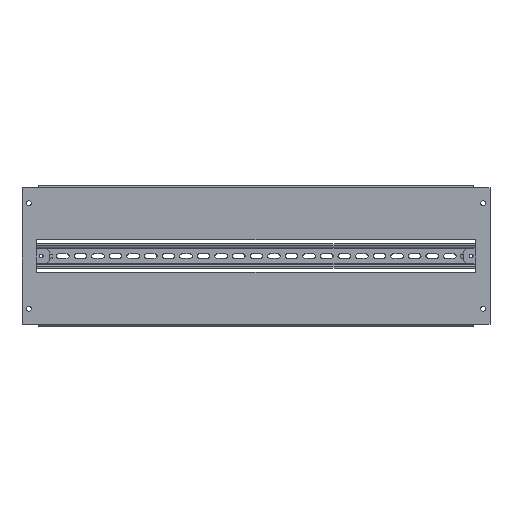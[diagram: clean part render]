
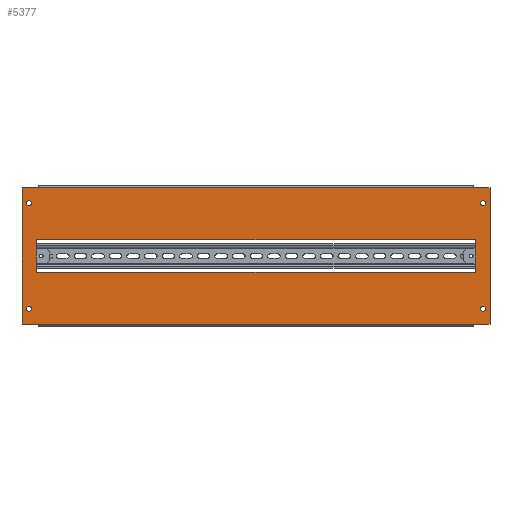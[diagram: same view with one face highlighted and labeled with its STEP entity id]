
A CAD part, top view. The second image highlights one B-rep face of the part: STEP entity #5377.
In plain terms, the highlighted planar face has unit normal (0, 0, 1).
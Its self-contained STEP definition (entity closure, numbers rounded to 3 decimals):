
#4 = VECTOR ( 'NONE', #4338, 1000. ) ;
#35 = LINE ( 'NONE', #6646, #6655 ) ;
#107 = VECTOR ( 'NONE', #2570, 1000. ) ;
#125 = ORIENTED_EDGE ( 'NONE', *, *, #6652, .T. ) ;
#151 = FACE_BOUND ( 'NONE', #4990, .T. ) ;
#288 = DIRECTION ( 'NONE',  ( -1., 0., 0. ) ) ;
#304 = AXIS2_PLACEMENT_3D ( 'NONE', #2150, #4310, #1592 ) ;
#365 = DIRECTION ( 'NONE',  ( 1., 0., 0. ) ) ;
#428 = ORIENTED_EDGE ( 'NONE', *, *, #2080, .T. ) ;
#508 = CARTESIAN_POINT ( 'NONE',  ( 309.5, 97.1, 1.2 ) ) ;
#515 = EDGE_LOOP ( 'NONE', ( #1681 ) ) ;
#568 = FACE_BOUND ( 'NONE', #5602, .T. ) ;
#820 = FACE_BOUND ( 'NONE', #515, .T. ) ;
#848 = AXIS2_PLACEMENT_3D ( 'NONE', #4821, #5903, #6463 ) ;
#950 = LINE ( 'NONE', #2250, #3691 ) ;
#1055 = VECTOR ( 'NONE', #1675, 1000. ) ;
#1066 = CARTESIAN_POINT ( 'NONE',  ( 319.25, -75., 1.2 ) ) ;
#1113 = CARTESIAN_POINT ( 'NONE',  ( -319.25, -75., 1.2 ) ) ;
#1276 = VECTOR ( 'NONE', #4533, 1000. ) ;
#1282 = VERTEX_POINT ( 'NONE', #4935 ) ;
#1286 = LINE ( 'NONE', #5952, #4 ) ;
#1592 = DIRECTION ( 'NONE',  ( -1., 0., 0. ) ) ;
#1661 = EDGE_CURVE ( 'NONE', #2242, #2242, #6319, .T. ) ;
#1675 = DIRECTION ( 'NONE',  ( 0., 1., 0. ) ) ;
#1681 = ORIENTED_EDGE ( 'NONE', *, *, #4115, .T. ) ;
#1761 = ORIENTED_EDGE ( 'NONE', *, *, #6206, .T. ) ;
#1784 = DIRECTION ( 'NONE',  ( -1., 0., 0. ) ) ;
#1786 = VERTEX_POINT ( 'NONE', #2698 ) ;
#1794 = VERTEX_POINT ( 'NONE', #2765 ) ;
#1845 = LINE ( 'NONE', #5785, #2860 ) ;
#1862 = LINE ( 'NONE', #6557, #3910 ) ;
#1960 = LINE ( 'NONE', #5026, #6695 ) ;
#1969 = AXIS2_PLACEMENT_3D ( 'NONE', #6781, #3594, #4669 ) ;
#1975 = VERTEX_POINT ( 'NONE', #2123 ) ;
#2080 = EDGE_CURVE ( 'NONE', #3343, #3343, #4038, .T. ) ;
#2123 = CARTESIAN_POINT ( 'NONE',  ( 332.5, -97.1, 1.2 ) ) ;
#2128 = CARTESIAN_POINT ( 'NONE',  ( 309.5, -97.1, 1.2 ) ) ;
#2129 = ORIENTED_EDGE ( 'NONE', *, *, #3645, .F. ) ;
#2138 = ORIENTED_EDGE ( 'NONE', *, *, #5415, .F. ) ;
#2150 = CARTESIAN_POINT ( 'NONE',  ( -322.75, 75., 1.2 ) ) ;
#2203 = CARTESIAN_POINT ( 'NONE',  ( 0., 0., 1.2 ) ) ;
#2207 = CARTESIAN_POINT ( 'NONE',  ( -322.75, -75., 1.2 ) ) ;
#2242 = VERTEX_POINT ( 'NONE', #1113 ) ;
#2250 = CARTESIAN_POINT ( 'NONE',  ( 332.5, 97.1, 1.2 ) ) ;
#2445 = EDGE_CURVE ( 'NONE', #1975, #6442, #6227, .T. ) ;
#2489 = VECTOR ( 'NONE', #5224, 1000. ) ;
#2504 = CARTESIAN_POINT ( 'NONE',  ( 332.5, -97.1, 1.2 ) ) ;
#2537 = EDGE_CURVE ( 'NONE', #1282, #1282, #4033, .T. ) ;
#2570 = DIRECTION ( 'NONE',  ( 0., 1., 0. ) ) ;
#2615 = EDGE_CURVE ( 'NONE', #4657, #5844, #4287, .T. ) ;
#2698 = CARTESIAN_POINT ( 'NONE',  ( -311.5, 23., 1.2 ) ) ;
#2740 = VERTEX_POINT ( 'NONE', #3006 ) ;
#2760 = ORIENTED_EDGE ( 'NONE', *, *, #6904, .F. ) ;
#2765 = CARTESIAN_POINT ( 'NONE',  ( -332.5, -97.1, 1.2 ) ) ;
#2860 = VECTOR ( 'NONE', #365, 1000. ) ;
#2937 = VERTEX_POINT ( 'NONE', #6651 ) ;
#3006 = CARTESIAN_POINT ( 'NONE',  ( -332.5, 97.1, 1.2 ) ) ;
#3056 = LINE ( 'NONE', #5204, #6203 ) ;
#3107 = CARTESIAN_POINT ( 'NONE',  ( 311.5, -23., 1.2 ) ) ;
#3162 = LINE ( 'NONE', #5615, #1276 ) ;
#3181 = VECTOR ( 'NONE', #288, 1000. ) ;
#3215 = ORIENTED_EDGE ( 'NONE', *, *, #1661, .F. ) ;
#3216 = EDGE_LOOP ( 'NONE', ( #6023, #125, #2129, #2760, #1761, #6012, #6630, #5078 ) ) ;
#3259 = EDGE_CURVE ( 'NONE', #5161, #1975, #6872, .T. ) ;
#3343 = VERTEX_POINT ( 'NONE', #4837 ) ;
#3363 = EDGE_CURVE ( 'NONE', #6395, #6442, #1286, .T. ) ;
#3497 = EDGE_CURVE ( 'NONE', #5161, #4490, #950, .T. ) ;
#3498 = CIRCLE ( 'NONE', #848, 3.5 ) ;
#3594 = DIRECTION ( 'NONE',  ( 0., 0., 1. ) ) ;
#3645 = EDGE_CURVE ( 'NONE', #2740, #2937, #3162, .T. ) ;
#3691 = VECTOR ( 'NONE', #4378, 1000. ) ;
#3796 = DIRECTION ( 'NONE',  ( 0., 0., -1. ) ) ;
#3863 = DIRECTION ( 'NONE',  ( 0., 1., 0. ) ) ;
#3867 = DIRECTION ( 'NONE',  ( 1., 0., 0. ) ) ;
#3910 = VECTOR ( 'NONE', #6986, 1000. ) ;
#3967 = CARTESIAN_POINT ( 'NONE',  ( -309.5, -97.1, 1.2 ) ) ;
#4033 = CIRCLE ( 'NONE', #1969, 3.5 ) ;
#4038 = CIRCLE ( 'NONE', #304, 3.5 ) ;
#4073 = CARTESIAN_POINT ( 'NONE',  ( 332.5, 97.1, 1.2 ) ) ;
#4115 = EDGE_CURVE ( 'NONE', #4773, #4773, #3498, .T. ) ;
#4118 = DIRECTION ( 'NONE',  ( -1., 0., 0. ) ) ;
#4287 = LINE ( 'NONE', #5267, #1055 ) ;
#4310 = DIRECTION ( 'NONE',  ( 0., 0., -1. ) ) ;
#4338 = DIRECTION ( 'NONE',  ( 1., 0., 0. ) ) ;
#4357 = EDGE_LOOP ( 'NONE', ( #428 ) ) ;
#4378 = DIRECTION ( 'NONE',  ( -1., 0., 0. ) ) ;
#4404 = PLANE ( 'NONE',  #6631 ) ;
#4490 = VERTEX_POINT ( 'NONE', #508 ) ;
#4529 = EDGE_CURVE ( 'NONE', #1786, #6242, #1960, .T. ) ;
#4533 = DIRECTION ( 'NONE',  ( 1., 0., 0. ) ) ;
#4643 = DIRECTION ( 'NONE',  ( 0., -1., 0. ) ) ;
#4657 = VERTEX_POINT ( 'NONE', #3107 ) ;
#4667 = CARTESIAN_POINT ( 'NONE',  ( 311.5, 23., 1.2 ) ) ;
#4669 = DIRECTION ( 'NONE',  ( 1., 0., 0. ) ) ;
#4711 = CARTESIAN_POINT ( 'NONE',  ( 332.5, -97.1, 1.2 ) ) ;
#4773 = VERTEX_POINT ( 'NONE', #1066 ) ;
#4806 = EDGE_CURVE ( 'NONE', #5844, #1786, #3056, .T. ) ;
#4821 = CARTESIAN_POINT ( 'NONE',  ( 322.75, -75., 1.2 ) ) ;
#4837 = CARTESIAN_POINT ( 'NONE',  ( -326.25, 75., 1.2 ) ) ;
#4935 = CARTESIAN_POINT ( 'NONE',  ( 326.25, 75., 1.2 ) ) ;
#4990 = EDGE_LOOP ( 'NONE', ( #3215 ) ) ;
#5026 = CARTESIAN_POINT ( 'NONE',  ( -311.5, 23., 1.2 ) ) ;
#5078 = ORIENTED_EDGE ( 'NONE', *, *, #3259, .F. ) ;
#5161 = VERTEX_POINT ( 'NONE', #4073 ) ;
#5168 = FACE_OUTER_BOUND ( 'NONE', #3216, .T. ) ;
#5204 = CARTESIAN_POINT ( 'NONE',  ( 311.5, 23., 1.2 ) ) ;
#5224 = DIRECTION ( 'NONE',  ( 0., -1., 0. ) ) ;
#5261 = FACE_BOUND ( 'NONE', #6666, .T. ) ;
#5267 = CARTESIAN_POINT ( 'NONE',  ( 311.5, -23., 1.2 ) ) ;
#5377 = ADVANCED_FACE ( 'NONE', ( #820, #5695, #5261, #151, #568, #5168 ), #4404, .F. ) ;
#5415 = EDGE_CURVE ( 'NONE', #6242, #4657, #1862, .T. ) ;
#5574 = LINE ( 'NONE', #6952, #107 ) ;
#5602 = EDGE_LOOP ( 'NONE', ( #2138, #5941, #6949, #6248 ) ) ;
#5615 = CARTESIAN_POINT ( 'NONE',  ( -332.5, 97.1, 1.2 ) ) ;
#5695 = FACE_BOUND ( 'NONE', #4357, .T. ) ;
#5785 = CARTESIAN_POINT ( 'NONE',  ( -332.5, -97.1, 1.2 ) ) ;
#5844 = VERTEX_POINT ( 'NONE', #4667 ) ;
#5903 = DIRECTION ( 'NONE',  ( 0., 0., -1. ) ) ;
#5941 = ORIENTED_EDGE ( 'NONE', *, *, #4529, .F. ) ;
#5952 = CARTESIAN_POINT ( 'NONE',  ( 309.5, -97.1, 1.2 ) ) ;
#6012 = ORIENTED_EDGE ( 'NONE', *, *, #3363, .T. ) ;
#6023 = ORIENTED_EDGE ( 'NONE', *, *, #3497, .T. ) ;
#6138 = AXIS2_PLACEMENT_3D ( 'NONE', #2207, #7012, #3867 ) ;
#6203 = VECTOR ( 'NONE', #4118, 1000. ) ;
#6206 = EDGE_CURVE ( 'NONE', #1794, #6395, #1845, .T. ) ;
#6227 = LINE ( 'NONE', #4711, #3181 ) ;
#6242 = VERTEX_POINT ( 'NONE', #6979 ) ;
#6248 = ORIENTED_EDGE ( 'NONE', *, *, #2615, .F. ) ;
#6319 = CIRCLE ( 'NONE', #6138, 3.5 ) ;
#6395 = VERTEX_POINT ( 'NONE', #3967 ) ;
#6442 = VERTEX_POINT ( 'NONE', #2128 ) ;
#6463 = DIRECTION ( 'NONE',  ( -1., 0., 0. ) ) ;
#6557 = CARTESIAN_POINT ( 'NONE',  ( -311.5, -23., 1.2 ) ) ;
#6630 = ORIENTED_EDGE ( 'NONE', *, *, #2445, .F. ) ;
#6631 = AXIS2_PLACEMENT_3D ( 'NONE', #2203, #3796, #3863 ) ;
#6646 = CARTESIAN_POINT ( 'NONE',  ( -309.5, 97.1, 1.2 ) ) ;
#6651 = CARTESIAN_POINT ( 'NONE',  ( -309.5, 97.1, 1.2 ) ) ;
#6652 = EDGE_CURVE ( 'NONE', #4490, #2937, #35, .T. ) ;
#6655 = VECTOR ( 'NONE', #1784, 1000. ) ;
#6666 = EDGE_LOOP ( 'NONE', ( #6770 ) ) ;
#6695 = VECTOR ( 'NONE', #4643, 1000. ) ;
#6770 = ORIENTED_EDGE ( 'NONE', *, *, #2537, .F. ) ;
#6781 = CARTESIAN_POINT ( 'NONE',  ( 322.75, 75., 1.2 ) ) ;
#6872 = LINE ( 'NONE', #2504, #2489 ) ;
#6904 = EDGE_CURVE ( 'NONE', #1794, #2740, #5574, .T. ) ;
#6949 = ORIENTED_EDGE ( 'NONE', *, *, #4806, .F. ) ;
#6952 = CARTESIAN_POINT ( 'NONE',  ( -332.5, 97.1, 1.2 ) ) ;
#6979 = CARTESIAN_POINT ( 'NONE',  ( -311.5, -23., 1.2 ) ) ;
#6986 = DIRECTION ( 'NONE',  ( 1., 0., 0. ) ) ;
#7012 = DIRECTION ( 'NONE',  ( 0., 0., 1. ) ) ;
